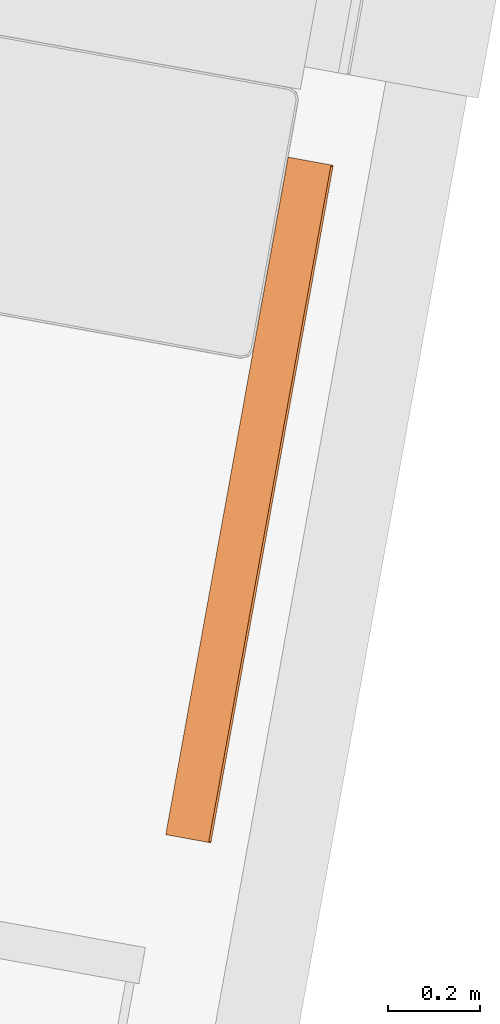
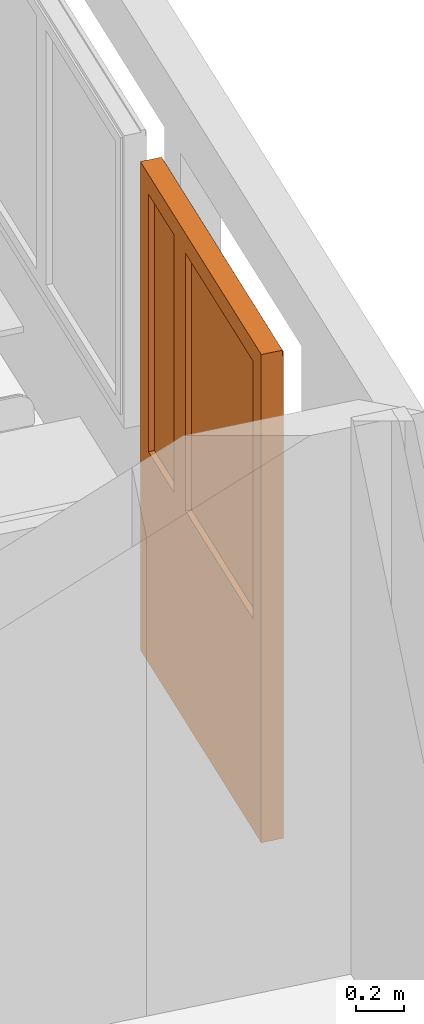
# One storey, part 63 of 79: 1 proxy.
"""IFC2X3 building model written with IfcOpenShell, lengths in metres."""

from ifc_helpers import new_model, entity, si_unit, converted_unit, derived_unit, money_unit, direction, frame, origin_with_axes, place, context, subcontext, project, spatial, open_shell, faceted_brep, surface_model, material, type_object, element, save


model = new_model("IFC2X3")

# Units and contexts
model_context = context("Model", 3, precision=1e-05, world=origin_with_axes(), true_north=direction((0.0, 1.0)))
body_context = subcontext(model_context, "Body", "Model", "MODEL_VIEW")
ifc_project = project(units=[si_unit("LENGTHUNIT", "METRE"), si_unit("AREAUNIT", "SQUARE_METRE"), si_unit("VOLUMEUNIT", "CUBIC_METRE"), converted_unit("PLANEANGLEUNIT", "DEGREE", entity("IfcPlaneAngleMeasure", 0.0174532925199), si_unit("PLANEANGLEUNIT", "RADIAN"), dimensions=[0, 0, 0, 0, 0, 0, 0]), money_unit("CHF"), converted_unit("TIMEUNIT", "Year", entity("IfcTimeMeasure", 31556926.0), si_unit("TIMEUNIT", "SECOND"), dimensions=[0, 0, 1, 0, 0, 0, 0]), si_unit("MASSUNIT", "GRAM", prefix="KILO"), si_unit("THERMODYNAMICTEMPERATUREUNIT", "DEGREE_CELSIUS"), si_unit("LUMINOUSINTENSITYUNIT", "LUMEN"), si_unit("ENERGYUNIT", "JOULE", prefix="MEGA"), derived_unit("THERMALCONDUCTANCEUNIT", [(si_unit("POWERUNIT", "WATT"), 1), (si_unit("LENGTHUNIT", "METRE"), -1), (si_unit("THERMODYNAMICTEMPERATUREUNIT", "KELVIN"), -1)]), derived_unit("SPECIFICHEATCAPACITYUNIT", [(si_unit("ENERGYUNIT", "JOULE"), 1), (si_unit("MASSUNIT", "GRAM", prefix="KILO"), -1), (si_unit("THERMODYNAMICTEMPERATUREUNIT", "KELVIN"), -1)]), derived_unit("MASSDENSITYUNIT", [(si_unit("MASSUNIT", "GRAM", prefix="KILO"), 1), (si_unit("VOLUMEUNIT", "CUBIC_METRE"), -1)])], contexts=[model_context])

# Site, building, storey
site_placement = place(None, frame((0.0, 0.0, 0.0), z_axis=(0.0, 0.0, 1.0), x_axis=(-0.177771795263, -0.984071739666, 0.0)))
site = spatial("IfcSite", under=ifc_project, at=site_placement, Name="Site", CompositionType="ELEMENT")
building_placement = place(site_placement, origin_with_axes())
building = spatial("IfcBuilding", under=site, at=building_placement, Name="Bâtiment", CompositionType="ELEMENT")
storey_placement = place(building_placement, origin_with_axes())
storey = spatial("IfcBuildingStorey", under=building, at=storey_placement, Name="RDC", CompositionType="ELEMENT", Elevation=0.0)

# Proxy
ifc_material = material(Name="Matériau de construction IFC")
building_element_proxy_type = type_object("IfcBuildingElementProxyType", Name="Porte double asymétrique 21", PredefinedType="NOTDEFINED")
proxy_placement = place(storey_placement, frame((136.984841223, -148.117150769, 0.0), z_axis=(0.0, 0.0, 1.0), x_axis=(-1.0, -7.39364379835e-08, 0.0)))
element("IfcBuildingElementProxy", 1, at=proxy_placement, inside=storey, type_object=building_element_proxy_type, material=ifc_material, Name="Porte classe", context=body_context, shape_type="SurfaceModel", body=[
    faceted_brep([(1.50000002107, 0.284999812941, 2.47), (1.50000001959, 0.264999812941, 2.47), (1.49700001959, 0.264999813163, 2.47), (1.49700002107, 0.284999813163, 2.47), (1.50000002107, 0.284999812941, 2.5), (1.50000001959, 0.264999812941, 2.5), (1.49700001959, 0.264999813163, 2.5), (1.49700002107, 0.284999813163, 2.5)], [[[0, 1, 2, 3]], [[0, 4, 5, 1]], [[1, 5, 6, 2]], [[3, 2, 6, 7]], [[4, 0, 3, 7]], [[5, 4, 7, 6]]]),
    faceted_brep([(0.00300002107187, 0.284999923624, 2.47), (0.00300001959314, 0.264999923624, 2.47), (1.95931590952e-08, 0.264999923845, 2.47), (2.10718837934e-08, 0.284999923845, 2.47), (0.00300002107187, 0.284999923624, 2.5), (0.00300001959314, 0.264999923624, 2.5), (1.95931590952e-08, 0.264999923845, 2.5), (2.10718837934e-08, 0.284999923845, 2.5)], [[[0, 1, 2, 3]], [[0, 4, 5, 1]], [[1, 5, 6, 2]], [[3, 2, 6, 7]], [[4, 0, 3, 7]], [[5, 4, 7, 6]]]),
    faceted_brep([(1.49700002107, 0.284999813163, 2.47), (1.49700002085, 0.281999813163, 2.47), (0.0030000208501, 0.281999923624, 2.47), (0.00300002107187, 0.284999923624, 2.47), (1.49700002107, 0.284999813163, 2.5), (1.49700001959, 0.264999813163, 2.5), (1.49700001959, 0.264999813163, 2.47), (1.49700001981, 0.267999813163, 2.47), (1.49700001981, 0.267999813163, 2.49), (1.49700001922, 0.259999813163, 2.49), (1.49700001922, 0.259999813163, 2.47), (1.49700001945, 0.262999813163, 2.47), (1.49700001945, 0.262999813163, 2.493), (1.49700001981, 0.267999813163, 2.493), (1.49700001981, 0.267999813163, 2.497), (1.49700002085, 0.281999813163, 2.497), (1.49700002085, 0.281999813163, 2.49), (0.0030000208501, 0.281999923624, 2.49), (0.0030000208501, 0.281999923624, 2.497), (0.00300001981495, 0.267999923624, 2.497), (0.00300001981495, 0.267999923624, 2.493), (0.00300001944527, 0.262999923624, 2.493), (0.00300001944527, 0.262999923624, 2.47), (0.00300001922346, 0.259999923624, 2.47), (0.00300001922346, 0.259999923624, 2.49), (0.00300001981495, 0.267999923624, 2.49), (0.00300001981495, 0.267999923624, 2.47), (0.00300001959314, 0.264999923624, 2.47), (0.00300001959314, 0.264999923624, 2.5), (0.00300002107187, 0.284999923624, 2.5)], [[[0, 1, 2, 3]], [[0, 4, 5, 6, 7, 8, 9, 10, 11, 12, 13, 14, 15, 16, 1]], [[1, 16, 17, 2]], [[3, 2, 17, 18, 19, 20, 21, 22, 23, 24, 25, 26, 27, 28, 29]], [[4, 0, 3, 29]], [[5, 4, 29, 28]], [[6, 5, 28, 27]], [[7, 6, 27, 26]], [[8, 7, 26, 25]], [[9, 8, 25, 24]], [[10, 9, 24, 23]], [[11, 10, 23, 22]], [[12, 11, 22, 21]], [[13, 12, 21, 20]], [[14, 13, 20, 19]], [[15, 14, 19, 18]], [[16, 15, 18, 17]]]),
    faceted_brep([(2.10718837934e-08, 0.284999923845, 0.0), (1.92234779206e-08, 0.259999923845, 0.0), (1.92234779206e-08, 0.259999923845, 2.47), (2.10718837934e-08, 0.284999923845, 2.47), (0.0250000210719, 0.284999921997, 0.0), (0.0250000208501, 0.281999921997, 0.0), (0.0030000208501, 0.281999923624, 0.0), (0.00300001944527, 0.262999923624, 0.0), (0.0250000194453, 0.262999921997, 0.0), (0.0250000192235, 0.259999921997, 0.0), (0.0250000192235, 0.259999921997, 2.47), (0.0250000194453, 0.262999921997, 2.47), (0.00300001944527, 0.262999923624, 2.47), (0.0030000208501, 0.281999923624, 2.47), (0.0250000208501, 0.281999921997, 2.47), (0.0250000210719, 0.284999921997, 2.47)], [[[0, 1, 2, 3]], [[0, 4, 5, 6, 7, 8, 9, 1]], [[1, 9, 10, 2]], [[3, 2, 10, 11, 12, 13, 14, 15]], [[4, 0, 3, 15]], [[5, 4, 15, 14]], [[6, 5, 14, 13]], [[7, 6, 13, 12]], [[8, 7, 12, 11]], [[9, 8, 11, 10]]]),
    faceted_brep([(1.50000002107, 0.284999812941, 0.0), (1.50000002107, 0.284999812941, 2.47), (1.50000001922, 0.259999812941, 2.47), (1.50000001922, 0.259999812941, 0.0), (1.47500002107, 0.284999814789, 0.0), (1.47500002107, 0.284999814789, 2.47), (1.47500002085, 0.281999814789, 2.47), (1.49700002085, 0.281999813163, 2.47), (1.49700001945, 0.262999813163, 2.47), (1.47500001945, 0.262999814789, 2.47), (1.47500001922, 0.259999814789, 2.47), (1.47500001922, 0.259999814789, 0.0), (1.47500001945, 0.262999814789, 0.0), (1.49700001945, 0.262999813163, 0.0), (1.49700002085, 0.281999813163, 0.0), (1.47500002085, 0.281999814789, 0.0)], [[[0, 1, 2, 3]], [[4, 5, 1, 0]], [[1, 5, 6, 7, 8, 9, 10, 2]], [[3, 2, 10, 11]], [[0, 3, 11, 12, 13, 14, 15, 4]], [[15, 6, 5, 4]], [[14, 7, 6, 15]], [[13, 8, 7, 14]], [[12, 9, 8, 13]], [[11, 10, 9, 12]]]),
    faceted_brep([(0.00300002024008, 0.273749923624, 2.495), (1.49700002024, 0.273749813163, 2.495), (1.49700002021, 0.273333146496, 2.49333333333), (0.00300002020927, 0.273333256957, 2.49333333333), (0.0030000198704, 0.268749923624, 2.495), (1.49700001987, 0.268749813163, 2.495), (1.49700001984, 0.268333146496, 2.49333333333), (1.49700001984, 0.268333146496, 2.48666666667), (1.49700001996, 0.269999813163, 2.48), (1.49700002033, 0.274999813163, 2.48), (1.49700002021, 0.273333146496, 2.48666666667), (0.00300002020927, 0.273333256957, 2.48666666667), (0.00300002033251, 0.274999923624, 2.48), (0.00300001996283, 0.269999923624, 2.48), (0.00300001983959, 0.268333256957, 2.48666666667), (0.00300001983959, 0.268333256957, 2.49333333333)], [[[0, 1, 2, 3]], [[1, 0, 4, 5]], [[1, 5, 6, 7, 8, 9, 10, 2]], [[2, 10, 11, 3]], [[4, 0, 3, 11, 12, 13, 14, 15]], [[6, 5, 4, 15]], [[7, 6, 15, 14]], [[8, 7, 14, 13]], [[9, 8, 13, 12]], [[10, 9, 12, 11]]]),
    faceted_brep([(1.49700002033, 0.274999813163, 2.48), (1.49700002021, 0.273333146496, 2.47333333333), (0.00300002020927, 0.273333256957, 2.47333333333), (0.00300002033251, 0.274999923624, 2.48), (1.49700001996, 0.269999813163, 2.48), (1.49700001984, 0.268333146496, 2.47333333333), (1.49700001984, 0.268333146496, 2.46666666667), (1.49700001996, 0.269999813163, 2.46), (1.49700002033, 0.274999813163, 2.46), (1.49700002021, 0.273333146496, 2.46666666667), (0.00300002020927, 0.273333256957, 2.46666666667), (0.00300002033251, 0.274999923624, 2.46), (0.00300001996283, 0.269999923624, 2.46), (0.00300001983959, 0.268333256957, 2.46666666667), (0.00300001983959, 0.268333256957, 2.47333333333), (0.00300001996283, 0.269999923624, 2.48)], [[[0, 1, 2, 3]], [[0, 4, 5, 6, 7, 8, 9, 1]], [[1, 9, 10, 2]], [[3, 2, 10, 11, 12, 13, 14, 15]], [[4, 0, 3, 15]], [[5, 4, 15, 14]], [[6, 5, 14, 13]], [[7, 6, 13, 12]], [[8, 7, 12, 11]], [[9, 8, 11, 10]]]),
    faceted_brep([(1.49700002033, 0.274999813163, 2.46), (1.49700002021, 0.273333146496, 2.45333333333), (0.00300002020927, 0.273333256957, 2.45333333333), (0.00300002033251, 0.274999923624, 2.46), (1.49700001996, 0.269999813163, 2.46), (1.49700001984, 0.268333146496, 2.45333333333), (1.49700001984, 0.268333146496, 2.44666666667), (1.49700001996, 0.269999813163, 2.44), (1.49700002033, 0.274999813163, 2.44), (1.49700002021, 0.273333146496, 2.44666666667), (0.00300002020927, 0.273333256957, 2.44666666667), (0.00300002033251, 0.274999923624, 2.44), (0.00300001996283, 0.269999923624, 2.44), (0.00300001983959, 0.268333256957, 2.44666666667), (0.00300001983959, 0.268333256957, 2.45333333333), (0.00300001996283, 0.269999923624, 2.46)], [[[0, 1, 2, 3]], [[0, 4, 5, 6, 7, 8, 9, 1]], [[1, 9, 10, 2]], [[3, 2, 10, 11, 12, 13, 14, 15]], [[4, 0, 3, 15]], [[5, 4, 15, 14]], [[6, 5, 14, 13]], [[7, 6, 13, 12]], [[8, 7, 12, 11]], [[9, 8, 11, 10]]]),
    faceted_brep([(1.49700002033, 0.274999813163, 2.44), (1.49700002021, 0.273333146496, 2.43333333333), (0.00300002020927, 0.273333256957, 2.43333333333), (0.00300002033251, 0.274999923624, 2.44), (1.49700001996, 0.269999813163, 2.44), (1.49700001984, 0.268333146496, 2.43333333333), (1.49700001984, 0.268333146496, 2.42666666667), (1.49700001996, 0.269999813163, 2.42), (1.49700002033, 0.274999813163, 2.42), (1.49700002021, 0.273333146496, 2.42666666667), (0.00300002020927, 0.273333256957, 2.42666666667), (0.00300002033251, 0.274999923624, 2.42), (0.00300001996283, 0.269999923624, 2.42), (0.00300001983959, 0.268333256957, 2.42666666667), (0.00300001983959, 0.268333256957, 2.43333333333), (0.00300001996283, 0.269999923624, 2.44)], [[[0, 1, 2, 3]], [[0, 4, 5, 6, 7, 8, 9, 1]], [[1, 9, 10, 2]], [[3, 2, 10, 11, 12, 13, 14, 15]], [[4, 0, 3, 15]], [[5, 4, 15, 14]], [[6, 5, 14, 13]], [[7, 6, 13, 12]], [[8, 7, 12, 11]], [[9, 8, 11, 10]]]),
    faceted_brep([(1.49700002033, 0.274999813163, 2.42), (1.49700002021, 0.273333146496, 2.41333333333), (0.00300002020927, 0.273333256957, 2.41333333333), (0.00300002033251, 0.274999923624, 2.42), (1.49700001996, 0.269999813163, 2.42), (1.49700001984, 0.268333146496, 2.41333333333), (1.49700001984, 0.268333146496, 2.40666666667), (1.49700001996, 0.269999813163, 2.4), (1.49700002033, 0.274999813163, 2.4), (1.49700002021, 0.273333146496, 2.40666666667), (0.00300002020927, 0.273333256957, 2.40666666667), (0.00300002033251, 0.274999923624, 2.4), (0.00300001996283, 0.269999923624, 2.4), (0.00300001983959, 0.268333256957, 2.40666666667), (0.00300001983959, 0.268333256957, 2.41333333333), (0.00300001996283, 0.269999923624, 2.42)], [[[0, 1, 2, 3]], [[0, 4, 5, 6, 7, 8, 9, 1]], [[1, 9, 10, 2]], [[3, 2, 10, 11, 12, 13, 14, 15]], [[4, 0, 3, 15]], [[5, 4, 15, 14]], [[6, 5, 14, 13]], [[7, 6, 13, 12]], [[8, 7, 12, 11]], [[9, 8, 11, 10]]]),
    faceted_brep([(1.49700002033, 0.274999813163, 2.4), (1.49700002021, 0.273333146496, 2.39333333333), (0.00300002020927, 0.273333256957, 2.39333333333), (0.00300002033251, 0.274999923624, 2.4), (1.49700001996, 0.269999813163, 2.4), (1.49700001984, 0.268333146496, 2.39333333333), (1.49700001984, 0.268333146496, 2.38666666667), (1.49700001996, 0.269999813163, 2.38), (1.49700002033, 0.274999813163, 2.38), (1.49700002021, 0.273333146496, 2.38666666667), (0.00300002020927, 0.273333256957, 2.38666666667), (0.00300002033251, 0.274999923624, 2.38), (0.00300001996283, 0.269999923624, 2.38), (0.00300001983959, 0.268333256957, 2.38666666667), (0.00300001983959, 0.268333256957, 2.39333333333), (0.00300001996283, 0.269999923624, 2.4)], [[[0, 1, 2, 3]], [[0, 4, 5, 6, 7, 8, 9, 1]], [[1, 9, 10, 2]], [[3, 2, 10, 11, 12, 13, 14, 15]], [[4, 0, 3, 15]], [[5, 4, 15, 14]], [[6, 5, 14, 13]], [[7, 6, 13, 12]], [[8, 7, 12, 11]], [[9, 8, 11, 10]]]),
    faceted_brep([(1.49700002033, 0.274999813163, 2.38), (1.49700002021, 0.273333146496, 2.37333333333), (0.00300002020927, 0.273333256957, 2.37333333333), (0.00300002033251, 0.274999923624, 2.38), (1.49700001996, 0.269999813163, 2.38), (1.49700001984, 0.268333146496, 2.37333333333), (1.49700001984, 0.268333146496, 2.36666666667), (1.49700001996, 0.269999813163, 2.36), (1.49700002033, 0.274999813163, 2.36), (1.49700002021, 0.273333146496, 2.36666666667), (0.00300002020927, 0.273333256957, 2.36666666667), (0.00300002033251, 0.274999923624, 2.36), (0.00300001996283, 0.269999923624, 2.36), (0.00300001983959, 0.268333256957, 2.36666666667), (0.00300001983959, 0.268333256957, 2.37333333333), (0.00300001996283, 0.269999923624, 2.38)], [[[0, 1, 2, 3]], [[0, 4, 5, 6, 7, 8, 9, 1]], [[1, 9, 10, 2]], [[3, 2, 10, 11, 12, 13, 14, 15]], [[4, 0, 3, 15]], [[5, 4, 15, 14]], [[6, 5, 14, 13]], [[7, 6, 13, 12]], [[8, 7, 12, 11]], [[9, 8, 11, 10]]]),
    faceted_brep([(1.49700002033, 0.274999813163, 2.36), (1.49700002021, 0.273333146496, 2.35333333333), (0.00300002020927, 0.273333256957, 2.35333333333), (0.00300002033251, 0.274999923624, 2.36), (1.49700001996, 0.269999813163, 2.36), (1.49700001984, 0.268333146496, 2.35333333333), (1.49700001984, 0.268333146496, 2.34666666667), (1.49700001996, 0.269999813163, 2.34), (1.49700002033, 0.274999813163, 2.34), (1.49700002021, 0.273333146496, 2.34666666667), (0.00300002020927, 0.273333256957, 2.34666666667), (0.00300002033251, 0.274999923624, 2.34), (0.00300001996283, 0.269999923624, 2.34), (0.00300001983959, 0.268333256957, 2.34666666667), (0.00300001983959, 0.268333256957, 2.35333333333), (0.00300001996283, 0.269999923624, 2.36)], [[[0, 1, 2, 3]], [[0, 4, 5, 6, 7, 8, 9, 1]], [[1, 9, 10, 2]], [[3, 2, 10, 11, 12, 13, 14, 15]], [[4, 0, 3, 15]], [[5, 4, 15, 14]], [[6, 5, 14, 13]], [[7, 6, 13, 12]], [[8, 7, 12, 11]], [[9, 8, 11, 10]]]),
    faceted_brep([(1.49700002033, 0.274999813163, 2.34), (1.49700002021, 0.273333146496, 2.33333333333), (0.00300002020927, 0.273333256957, 2.33333333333), (0.00300002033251, 0.274999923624, 2.34), (1.49700001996, 0.269999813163, 2.34), (1.49700001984, 0.268333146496, 2.33333333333), (1.49700001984, 0.268333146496, 2.32666666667), (1.49700001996, 0.269999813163, 2.32), (1.49700002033, 0.274999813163, 2.32), (1.49700002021, 0.273333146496, 2.32666666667), (0.00300002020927, 0.273333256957, 2.32666666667), (0.00300002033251, 0.274999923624, 2.32), (0.00300001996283, 0.269999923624, 2.32), (0.00300001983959, 0.268333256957, 2.32666666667), (0.00300001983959, 0.268333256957, 2.33333333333), (0.00300001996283, 0.269999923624, 2.34)], [[[0, 1, 2, 3]], [[0, 4, 5, 6, 7, 8, 9, 1]], [[1, 9, 10, 2]], [[3, 2, 10, 11, 12, 13, 14, 15]], [[4, 0, 3, 15]], [[5, 4, 15, 14]], [[6, 5, 14, 13]], [[7, 6, 13, 12]], [[8, 7, 12, 11]], [[9, 8, 11, 10]]]),
    faceted_brep([(1.49700002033, 0.274999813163, 2.32), (1.49700002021, 0.273333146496, 2.31333333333), (0.00300002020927, 0.273333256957, 2.31333333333), (0.00300002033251, 0.274999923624, 2.32), (1.49700001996, 0.269999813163, 2.32), (1.49700001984, 0.268333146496, 2.31333333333), (1.49700001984, 0.268333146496, 2.30666666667), (1.49700001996, 0.269999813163, 2.3), (1.49700002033, 0.274999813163, 2.3), (1.49700002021, 0.273333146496, 2.30666666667), (0.00300002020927, 0.273333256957, 2.30666666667), (0.00300002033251, 0.274999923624, 2.3), (0.00300001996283, 0.269999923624, 2.3), (0.00300001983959, 0.268333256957, 2.30666666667), (0.00300001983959, 0.268333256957, 2.31333333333), (0.00300001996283, 0.269999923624, 2.32)], [[[0, 1, 2, 3]], [[0, 4, 5, 6, 7, 8, 9, 1]], [[1, 9, 10, 2]], [[3, 2, 10, 11, 12, 13, 14, 15]], [[4, 0, 3, 15]], [[5, 4, 15, 14]], [[6, 5, 14, 13]], [[7, 6, 13, 12]], [[8, 7, 12, 11]], [[9, 8, 11, 10]]]),
    faceted_brep([(1.49700002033, 0.274999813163, 2.3), (1.49700002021, 0.273333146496, 2.29333333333), (0.00300002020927, 0.273333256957, 2.29333333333), (0.00300002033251, 0.274999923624, 2.3), (1.49700001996, 0.269999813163, 2.3), (1.49700001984, 0.268333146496, 2.29333333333), (1.49700001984, 0.268333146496, 2.28666666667), (1.49700001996, 0.269999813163, 2.28), (1.49700002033, 0.274999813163, 2.28), (1.49700002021, 0.273333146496, 2.28666666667), (0.00300002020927, 0.273333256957, 2.28666666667), (0.00300002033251, 0.274999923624, 2.28), (0.00300001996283, 0.269999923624, 2.28), (0.00300001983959, 0.268333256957, 2.28666666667), (0.00300001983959, 0.268333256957, 2.29333333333), (0.00300001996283, 0.269999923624, 2.3)], [[[0, 1, 2, 3]], [[0, 4, 5, 6, 7, 8, 9, 1]], [[1, 9, 10, 2]], [[3, 2, 10, 11, 12, 13, 14, 15]], [[4, 0, 3, 15]], [[5, 4, 15, 14]], [[6, 5, 14, 13]], [[7, 6, 13, 12]], [[8, 7, 12, 11]], [[9, 8, 11, 10]]]),
    faceted_brep([(1.49700002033, 0.274999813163, 2.28), (1.49700002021, 0.273333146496, 2.27333333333), (0.00300002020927, 0.273333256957, 2.27333333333), (0.00300002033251, 0.274999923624, 2.28), (1.49700001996, 0.269999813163, 2.28), (1.49700001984, 0.268333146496, 2.27333333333), (1.49700001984, 0.268333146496, 2.26666666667), (1.49700001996, 0.269999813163, 2.26), (1.49700002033, 0.274999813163, 2.26), (1.49700002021, 0.273333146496, 2.26666666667), (0.00300002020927, 0.273333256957, 2.26666666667), (0.00300002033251, 0.274999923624, 2.26), (0.00300001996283, 0.269999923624, 2.26), (0.00300001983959, 0.268333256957, 2.26666666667), (0.00300001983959, 0.268333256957, 2.27333333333), (0.00300001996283, 0.269999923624, 2.28)], [[[0, 1, 2, 3]], [[0, 4, 5, 6, 7, 8, 9, 1]], [[1, 9, 10, 2]], [[3, 2, 10, 11, 12, 13, 14, 15]], [[4, 0, 3, 15]], [[5, 4, 15, 14]], [[6, 5, 14, 13]], [[7, 6, 13, 12]], [[8, 7, 12, 11]], [[9, 8, 11, 10]]]),
    faceted_brep([(1.49700002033, 0.274999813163, 2.26), (1.49700002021, 0.273333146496, 2.25333333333), (0.00300002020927, 0.273333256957, 2.25333333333), (0.00300002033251, 0.274999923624, 2.26), (1.49700001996, 0.269999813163, 2.26), (1.49700001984, 0.268333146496, 2.25333333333), (1.49700001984, 0.268333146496, 2.24666666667), (1.49700001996, 0.269999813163, 2.24), (1.49700002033, 0.274999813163, 2.24), (1.49700002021, 0.273333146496, 2.24666666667), (0.00300002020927, 0.273333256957, 2.24666666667), (0.00300002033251, 0.274999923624, 2.24), (0.00300001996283, 0.269999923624, 2.24), (0.00300001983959, 0.268333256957, 2.24666666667), (0.00300001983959, 0.268333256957, 2.25333333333), (0.00300001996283, 0.269999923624, 2.26)], [[[0, 1, 2, 3]], [[0, 4, 5, 6, 7, 8, 9, 1]], [[1, 9, 10, 2]], [[3, 2, 10, 11, 12, 13, 14, 15]], [[4, 0, 3, 15]], [[5, 4, 15, 14]], [[6, 5, 14, 13]], [[7, 6, 13, 12]], [[8, 7, 12, 11]], [[9, 8, 11, 10]]]),
    faceted_brep([(1.49700002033, 0.274999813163, 2.24), (1.49700002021, 0.273333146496, 2.23333333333), (0.00300002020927, 0.273333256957, 2.23333333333), (0.00300002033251, 0.274999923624, 2.24), (1.49700001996, 0.269999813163, 2.24), (1.49700001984, 0.268333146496, 2.23333333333), (1.49700001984, 0.268333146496, 2.22666666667), (1.49700001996, 0.269999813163, 2.22), (1.49700002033, 0.274999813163, 2.22), (1.49700002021, 0.273333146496, 2.22666666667), (0.00300002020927, 0.273333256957, 2.22666666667), (0.00300002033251, 0.274999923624, 2.22), (0.00300001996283, 0.269999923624, 2.22), (0.00300001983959, 0.268333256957, 2.22666666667), (0.00300001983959, 0.268333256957, 2.23333333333), (0.00300001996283, 0.269999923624, 2.24)], [[[0, 1, 2, 3]], [[0, 4, 5, 6, 7, 8, 9, 1]], [[1, 9, 10, 2]], [[3, 2, 10, 11, 12, 13, 14, 15]], [[4, 0, 3, 15]], [[5, 4, 15, 14]], [[6, 5, 14, 13]], [[7, 6, 13, 12]], [[8, 7, 12, 11]], [[9, 8, 11, 10]]]),
    faceted_brep([(1.49700002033, 0.274999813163, 2.22), (1.49700002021, 0.273333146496, 2.21333333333), (0.00300002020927, 0.273333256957, 2.21333333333), (0.00300002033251, 0.274999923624, 2.22), (1.49700001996, 0.269999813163, 2.22), (1.49700001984, 0.268333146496, 2.21333333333), (1.49700001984, 0.268333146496, 2.20666666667), (1.49700001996, 0.269999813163, 2.2), (1.49700002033, 0.274999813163, 2.2), (1.49700002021, 0.273333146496, 2.20666666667), (0.00300002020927, 0.273333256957, 2.20666666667), (0.00300002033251, 0.274999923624, 2.2), (0.00300001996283, 0.269999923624, 2.2), (0.00300001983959, 0.268333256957, 2.20666666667), (0.00300001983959, 0.268333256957, 2.21333333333), (0.00300001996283, 0.269999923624, 2.22)], [[[0, 1, 2, 3]], [[0, 4, 5, 6, 7, 8, 9, 1]], [[1, 9, 10, 2]], [[3, 2, 10, 11, 12, 13, 14, 15]], [[4, 0, 3, 15]], [[5, 4, 15, 14]], [[6, 5, 14, 13]], [[7, 6, 13, 12]], [[8, 7, 12, 11]], [[9, 8, 11, 10]]]),
    faceted_brep([(1.50000002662, 0.359999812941, 0.0), (1.50000002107, 0.284999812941, 0.0), (1.47000002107, 0.284999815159, 0.0), (1.47000002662, 0.359999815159, 0.0), (1.50000002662, 0.359999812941, 2.47), (1.50000002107, 0.284999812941, 2.47), (1.47000002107, 0.284999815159, 2.47), (1.47000002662, 0.359999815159, 2.47)], [[[0, 1, 2, 3]], [[4, 5, 1, 0]], [[1, 5, 6, 2]], [[3, 2, 6, 7]], [[0, 3, 7, 4]], [[7, 6, 5, 4]]]),
    faceted_brep([(2.66171298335e-08, 0.359999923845, 0.0), (2.10718837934e-08, 0.284999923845, 0.0), (2.10718837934e-08, 0.284999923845, 2.47), (2.66171298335e-08, 0.359999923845, 2.47), (0.0300000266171, 0.359999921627, 0.0), (0.0300000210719, 0.284999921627, 0.0), (0.0300000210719, 0.284999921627, 2.47), (0.0300000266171, 0.359999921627, 2.47)], [[[0, 1, 2, 3]], [[4, 5, 1, 0]], [[1, 5, 6, 2]], [[3, 2, 6, 7]], [[0, 3, 7, 4]], [[7, 6, 5, 4]]]),
    faceted_brep([(1.50000002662, 0.359999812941, 2.5), (1.50000002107, 0.284999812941, 2.5), (1.50000002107, 0.284999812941, 2.47), (1.50000002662, 0.359999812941, 2.47), (2.66171298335e-08, 0.359999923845, 2.5), (2.10718837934e-08, 0.284999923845, 2.5), (2.10718837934e-08, 0.284999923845, 2.47), (0.0300000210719, 0.284999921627, 2.47), (1.47000002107, 0.284999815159, 2.47), (1.47000002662, 0.359999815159, 2.47), (0.0300000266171, 0.359999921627, 2.47), (2.66171298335e-08, 0.359999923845, 2.47)], [[[0, 1, 2, 3]], [[4, 5, 1, 0]], [[1, 5, 6, 7, 8, 2]], [[3, 2, 8, 9]], [[0, 3, 9, 10, 11, 4]], [[11, 6, 5, 4]], [[10, 7, 6, 11]], [[9, 8, 7, 10]]]),
    faceted_brep([(0.0300000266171, 0.359999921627, 1.08), (0.100000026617, 0.359999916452, 1.08), (0.100000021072, 0.284999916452, 1.08), (0.0300000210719, 0.284999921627, 1.08), (0.0300000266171, 0.359999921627, 2.4), (0.100000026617, 0.359999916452, 2.4), (0.100000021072, 0.284999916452, 2.4), (0.0300000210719, 0.284999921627, 2.4)], [[[0, 1, 2, 3]], [[0, 4, 5, 1]], [[1, 5, 6, 2]], [[3, 2, 6, 7]], [[4, 0, 3, 7]], [[5, 4, 7, 6]]]),
    faceted_brep([(1.01000002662, 0.35999984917, 1.08), (1.01000002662, 0.35999984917, 2.4), (1.01000002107, 0.28499984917, 2.4), (1.01000002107, 0.28499984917, 1.08), (0.940000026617, 0.359999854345, 1.08), (0.940000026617, 0.359999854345, 2.4), (0.940000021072, 0.284999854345, 2.4), (0.940000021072, 0.284999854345, 1.08)], [[[0, 1, 2, 3]], [[0, 4, 5, 1]], [[1, 5, 6, 2]], [[3, 2, 6, 7]], [[4, 0, 3, 7]], [[5, 4, 7, 6]]]),
    faceted_brep([(0.0300000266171, 0.359999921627, 0.0), (1.01000002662, 0.35999984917, 0.0), (1.01000002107, 0.28499984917, 0.0), (0.0300000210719, 0.284999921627, 0.0), (0.0300000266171, 0.359999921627, 1.08), (0.100000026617, 0.359999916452, 1.08), (0.940000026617, 0.359999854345, 1.08), (1.01000002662, 0.35999984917, 1.08), (1.01000002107, 0.28499984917, 1.08), (0.940000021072, 0.284999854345, 1.08), (0.100000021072, 0.284999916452, 1.08), (0.0300000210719, 0.284999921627, 1.08)], [[[0, 1, 2, 3]], [[0, 4, 5, 6, 7, 1]], [[1, 7, 8, 2]], [[3, 2, 8, 9, 10, 11]], [[4, 0, 3, 11]], [[5, 4, 11, 10]], [[6, 5, 10, 9]], [[7, 6, 9, 8]]]),
    faceted_brep([(0.0300000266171, 0.359999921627, 2.47), (0.0300000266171, 0.359999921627, 2.4), (0.0300000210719, 0.284999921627, 2.4), (0.0300000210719, 0.284999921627, 2.47), (1.01000002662, 0.35999984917, 2.47), (1.01000002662, 0.35999984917, 2.4), (0.940000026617, 0.359999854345, 2.4), (0.100000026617, 0.359999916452, 2.4), (0.100000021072, 0.284999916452, 2.4), (0.940000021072, 0.284999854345, 2.4), (1.01000002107, 0.28499984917, 2.4), (1.01000002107, 0.28499984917, 2.47)], [[[0, 1, 2, 3]], [[0, 4, 5, 6, 7, 1]], [[1, 7, 8, 2]], [[3, 2, 8, 9, 10, 11]], [[4, 0, 3, 11]], [[5, 4, 11, 10]], [[6, 5, 10, 9]], [[7, 6, 9, 8]]]),
    surface_model("IfcShellBasedSurfaceModel", [(0.100000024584, 0.332499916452, 1.08), (0.100000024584, 0.332499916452, 2.4), (0.940000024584, 0.332499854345, 2.4), (0.940000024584, 0.332499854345, 1.08)], [open_shell([[[0, 1, 2, 3]]])]),
    surface_model("IfcShellBasedSurfaceModel", [(0.100000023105, 0.312499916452, 1.08), (0.940000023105, 0.312499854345, 1.08), (0.940000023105, 0.312499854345, 2.4), (0.100000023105, 0.312499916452, 2.4)], [open_shell([[[0, 1, 2, 3]]])]),
    faceted_brep([(1.47000002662, 0.359999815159, 1.08), (1.47000002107, 0.284999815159, 1.08), (1.40000002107, 0.284999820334, 1.08), (1.40000002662, 0.359999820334, 1.08), (1.47000002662, 0.359999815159, 2.4), (1.47000002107, 0.284999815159, 2.4), (1.40000002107, 0.284999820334, 2.4), (1.40000002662, 0.359999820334, 2.4)], [[[0, 1, 2, 3]], [[4, 5, 1, 0]], [[1, 5, 6, 2]], [[3, 2, 6, 7]], [[0, 3, 7, 4]], [[7, 6, 5, 4]]]),
    faceted_brep([(1.01000002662, 0.35999984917, 1.08), (1.01000002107, 0.28499984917, 1.08), (1.01000002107, 0.28499984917, 2.4), (1.01000002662, 0.35999984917, 2.4), (1.08000002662, 0.359999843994, 1.08), (1.08000002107, 0.284999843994, 1.08), (1.08000002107, 0.284999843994, 2.4), (1.08000002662, 0.359999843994, 2.4)], [[[0, 1, 2, 3]], [[4, 5, 1, 0]], [[1, 5, 6, 2]], [[3, 2, 6, 7]], [[0, 3, 7, 4]], [[7, 6, 5, 4]]]),
    faceted_brep([(1.47000002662, 0.359999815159, 0.0), (1.47000002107, 0.284999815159, 0.0), (1.01000002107, 0.28499984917, 0.0), (1.01000002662, 0.35999984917, 0.0), (1.47000002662, 0.359999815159, 1.08), (1.47000002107, 0.284999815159, 1.08), (1.40000002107, 0.284999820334, 1.08), (1.08000002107, 0.284999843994, 1.08), (1.01000002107, 0.28499984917, 1.08), (1.01000002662, 0.35999984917, 1.08), (1.08000002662, 0.359999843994, 1.08), (1.40000002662, 0.359999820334, 1.08)], [[[0, 1, 2, 3]], [[4, 5, 1, 0]], [[1, 5, 6, 7, 8, 2]], [[3, 2, 8, 9]], [[0, 3, 9, 10, 11, 4]], [[11, 6, 5, 4]], [[10, 7, 6, 11]], [[9, 8, 7, 10]]]),
    faceted_brep([(1.47000002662, 0.359999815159, 2.47), (1.47000002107, 0.284999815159, 2.47), (1.47000002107, 0.284999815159, 2.4), (1.47000002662, 0.359999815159, 2.4), (1.01000002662, 0.35999984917, 2.47), (1.01000002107, 0.28499984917, 2.47), (1.01000002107, 0.28499984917, 2.4), (1.08000002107, 0.284999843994, 2.4), (1.40000002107, 0.284999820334, 2.4), (1.40000002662, 0.359999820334, 2.4), (1.08000002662, 0.359999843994, 2.4), (1.01000002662, 0.35999984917, 2.4)], [[[0, 1, 2, 3]], [[4, 5, 1, 0]], [[1, 5, 6, 7, 8, 2]], [[3, 2, 8, 9]], [[0, 3, 9, 10, 11, 4]], [[11, 6, 5, 4]], [[10, 7, 6, 11]], [[9, 8, 7, 10]]]),
    surface_model("IfcShellBasedSurfaceModel", [(1.40000002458, 0.332499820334, 1.08), (1.08000002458, 0.332499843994, 1.08), (1.08000002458, 0.332499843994, 2.4), (1.40000002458, 0.332499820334, 2.4)], [open_shell([[[0, 1, 2, 3]]])]),
    surface_model("IfcShellBasedSurfaceModel", [(1.40000002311, 0.312499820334, 1.08), (1.40000002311, 0.312499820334, 2.4), (1.08000002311, 0.312499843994, 2.4), (1.08000002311, 0.312499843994, 1.08)], [open_shell([[[0, 1, 2, 3]]])]),
])

save(model, "model.ifc")
